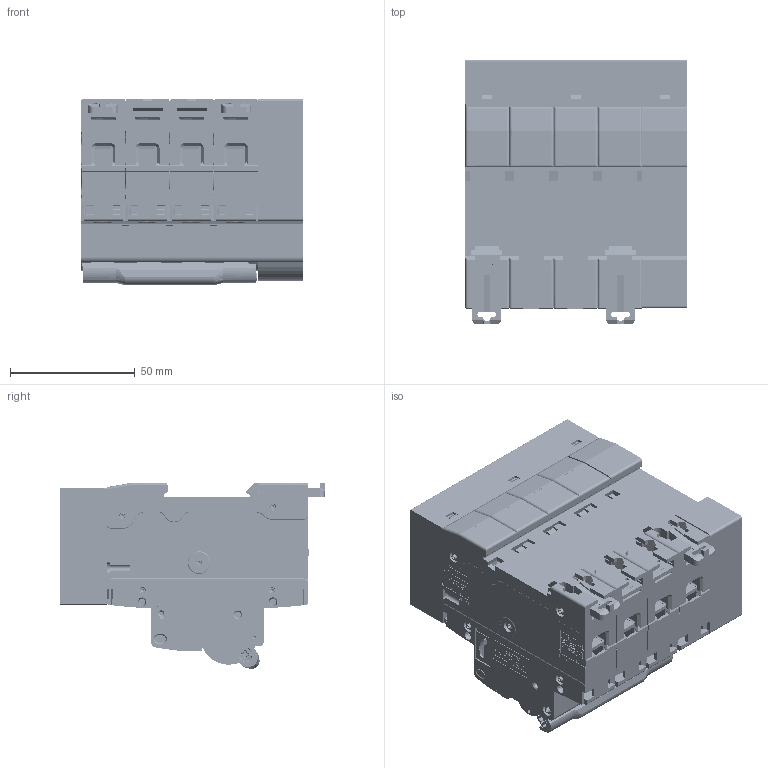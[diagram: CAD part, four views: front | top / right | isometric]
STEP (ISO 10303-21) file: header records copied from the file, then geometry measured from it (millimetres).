
FILE_DESCRIPTION((''),'2;1');
FILE_NAME('ASM0029_ASM','2023-11-10T',('wenjie.wang'),(''),'PRO/ENGINEER BY PARAMETRIC TECHNOLOGY CORPORATION, 2015440','PRO/ENGINEER BY PARAMETRIC TECHNOLOGY CORPORATION, 2015440','');
FILE_SCHEMA(('CONFIG_CONTROL_DESIGN'));
Products named in the file (3): 2255029800_SW0001; 5064059700; ASM0029_ASM
Assembly tree (2 placements, depth 2):
  ASM0029_ASM
    2255029800_SW0001
    5064059700
Bounding box: 89.1 x 106.18 x 74.54 mm (x, y, z)
Volume: 358292.9 mm3; surface area: 190626.4 mm2
Topology: 2 solids, 52 shells, 20457 faces, 55869 edges, 35708 vertices
Faces by surface type: plane 12474, cylinder 4136, extrusion 2099, cone 746, torus 464, bspline 269, sphere 269
Entity records: 669455 total; most frequent: CARTESIAN_POINT 159140, ORIENTED_EDGE 111658, DIRECTION 96445, EDGE_CURVE 55829, VECTOR 41765, LINE 39666, VERTEX_POINT 35709, AXIS2_PLACEMENT_3D 27340
